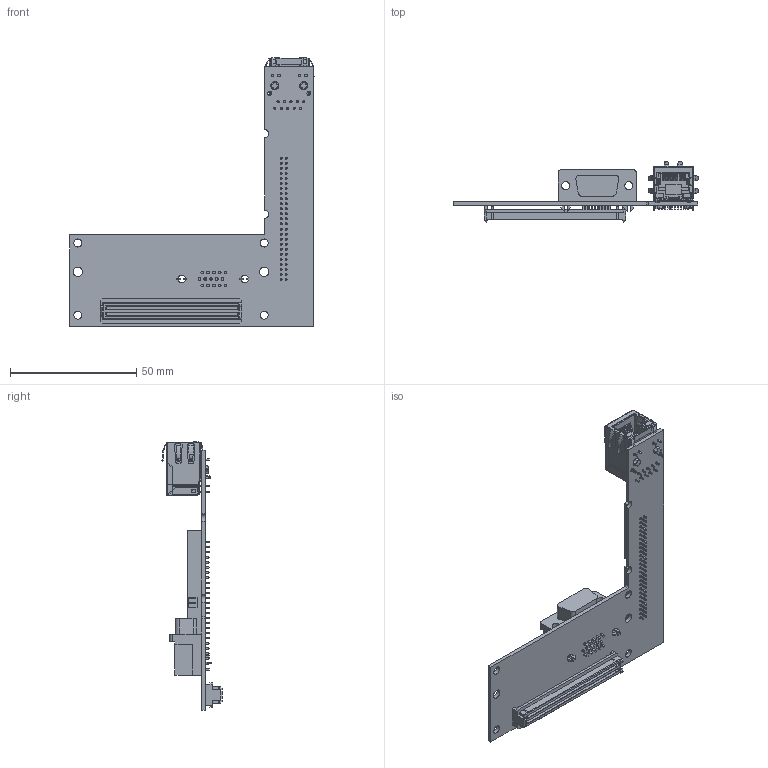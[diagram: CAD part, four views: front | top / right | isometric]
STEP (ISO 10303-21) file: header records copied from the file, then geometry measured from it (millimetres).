
FILE_DESCRIPTION((''),'2;1');
FILE_NAME('CU_SBRIO-9698','2018-01-16T',('dkendric'),(''),'CREO PARAMETRIC BY PTC INC, 2015380','CREO PARAMETRIC BY PTC INC, 2015380','');
FILE_SCHEMA(('CONFIG_CONTROL_DESIGN'));
Products named in the file (1): CU_SBRIO-9698
Bounding box: 96.67 x 23.84 x 106.32 mm (x, y, z)
Volume: 16317.3 mm3; surface area: 21636.8 mm2
Topology: 6 solids, 7 shells, 2660 faces, 6500 edges, 4015 vertices
Faces by surface type: plane 1696, cylinder 854, bspline 70, extrusion 12, sphere 10, cone 10, torus 8
Entity records: 81583 total; most frequent: CARTESIAN_POINT 19774, ORIENTED_EDGE 12996, DIRECTION 11963, EDGE_CURVE 6498, VECTOR 5035, LINE 5023, VERTEX_POINT 4015, AXIS2_PLACEMENT_3D 3464
